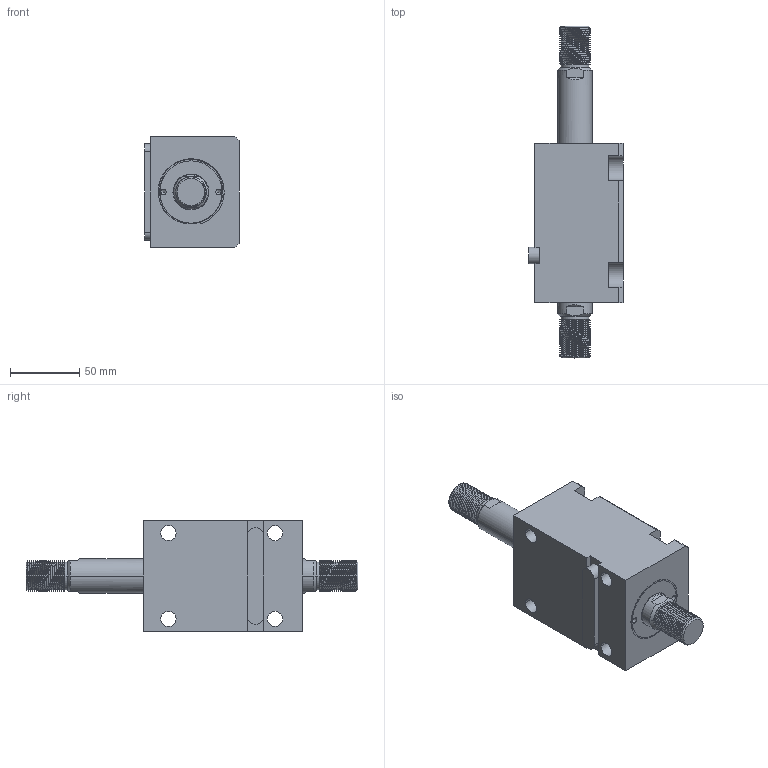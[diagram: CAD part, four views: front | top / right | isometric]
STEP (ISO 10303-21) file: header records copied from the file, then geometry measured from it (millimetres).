
FILE_DESCRIPTION (( 'STEP AP214' ), '1' );
FILE_NAME ('chtb-lw40x45w_asm.STEP', '2018-06-04T07:42:30', ( 'Windows' ), ( 'Microsoft' ), 'SwSTEP 2.0', 'SolidWorks 2015', '' );
FILE_SCHEMA (( 'AUTOMOTIVE_DESIGN' ));
Length unit declared in the file: millimetre
Products named in the file (5): CHTB-SD40QG; CHTB-LW40X45NBT; CHTB-LA40PJ; chtb-lw40x45w_asm; CHTB-SW40X45NHSG
Assembly tree (4 placements, depth 2):
  chtb-lw40x45w_asm
    CHTB-LA40PJ
    CHTB-LW40X45NBT
    CHTB-SD40QG
    CHTB-SW40X45NHSG
Bounding box: 68.5 x 240 x 80 mm (x, y, z)
Volume: 571086.1 mm3; surface area: 102699 mm2
Topology: 4 solids, 4 shells, 258 faces, 711 edges, 473 vertices
Faces by surface type: cylinder 152, plane 59, bspline 18, cone 17, torus 12
Entity records: 17539 total; most frequent: CARTESIAN_POINT 11292, ORIENTED_EDGE 1410, DIRECTION 1124, EDGE_CURVE 705, VERTEX_POINT 473, AXIS2_PLACEMENT_3D 433, EDGE_LOOP 292, ADVANCED_FACE 258
